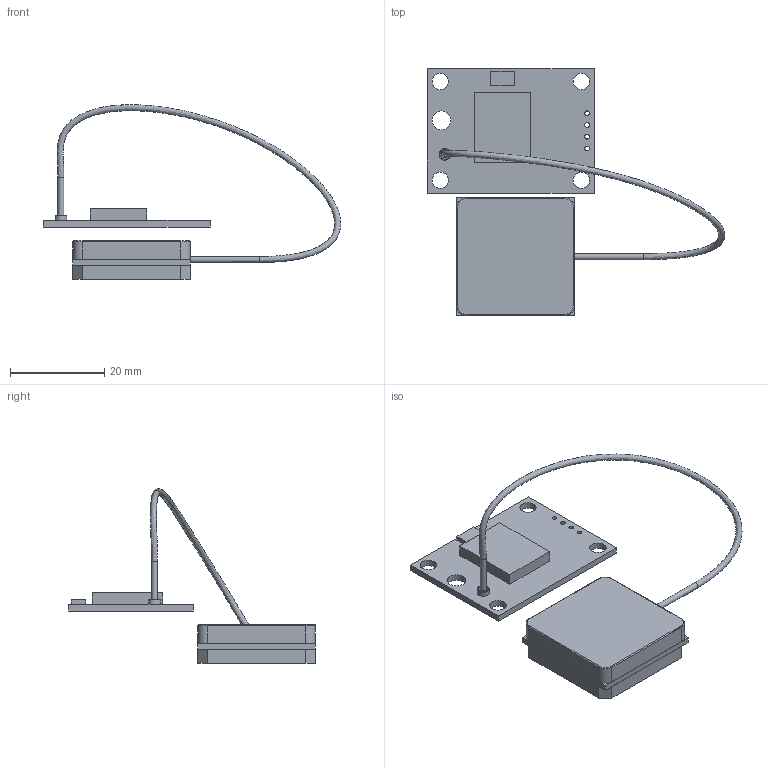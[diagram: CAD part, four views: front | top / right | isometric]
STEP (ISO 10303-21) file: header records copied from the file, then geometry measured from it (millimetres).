
FILE_DESCRIPTION(('FreeCAD Model'),'2;1');
FILE_NAME('Open CASCADE Shape Model','2023-05-06T18:44:57',('Author'),( ''),'Open CASCADE STEP processor 7.5','FreeCAD','Unknown');
FILE_SCHEMA(('AUTOMOTIVE_DESIGN { 1 0 10303 214 1 1 1 1 }'));
Length unit declared in the file: millimetre
Products named in the file (4): Part4^ass_gps_gy; part_antenn_gps; GPS GY-GPS6MV2; part_corps_gps
Assembly tree (3 placements, depth 2):
  GPS GY-GPS6MV2
    part_antenn_gps
    part_corps_gps
    Part4^ass_gps_gy
Bounding box: 63.24 x 52.48 x 37.13 mm (x, y, z)
Volume: 4678 mm3; surface area: 7980.2 mm2
Topology: 7 solids, 7 shells, 82 faces, 197 edges, 131 vertices
Faces by surface type: plane 52, cylinder 25, torus 4, bspline 1
Full cylindrical faces by diameter (mm): 1 x4, 1.3 x2, 2.1 x1, 2.5 x1, 3.5 x4, 4 x1
Entity records: 3195 total; most frequent: CARTESIAN_POINT 593, DIRECTION 402, ORIENTED_EDGE 348, EDGE_CURVE 174, AXIS2_PLACEMENT_3D 141, VERTEX_POINT 122, VECTOR 120, LINE 120
